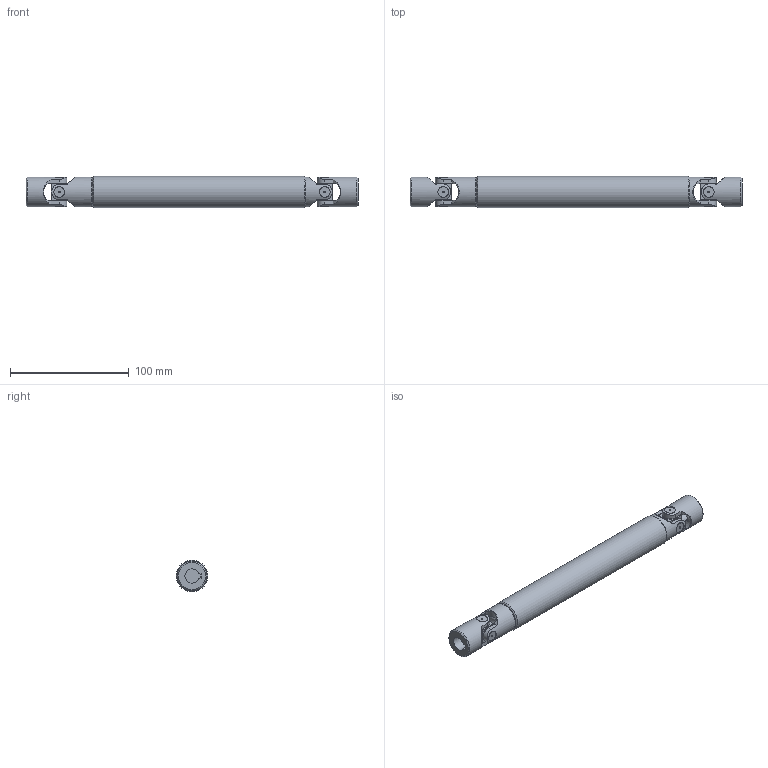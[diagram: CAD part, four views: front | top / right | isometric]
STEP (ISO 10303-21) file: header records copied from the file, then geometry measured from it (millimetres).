
FILE_DESCRIPTION(/* description */ (''),/* implementation_level */ '2;1');
FILE_NAME(/* name */ '\\SRV2016\Societa\Stefano\Disegni 3D\00Catalogo 3D\03Trasmissioni standard GA\!04GA29\!04GA29_SG0A1229.stp',/* time_stamp */ '2022-02-15T10:48:22+01:00',/* author */ ('acquisti'),/* organization */ (''),/* preprocessor_version */ 'ST-DEVELOPER v15.6',/* originating_system */ 'Autodesk Inventor 2015',/* authorisation */ '');
FILE_SCHEMA (('AUTOMOTIVE_DESIGN { 1 0 10303 214 3 1 1 }'));
Length unit declared in the file: millimetre
Products named in the file (5): !04GA29 LCI; !04GA29 LAI; 04G MOC; 04G SFE; !04GA29_SG0A1229
Assembly tree (6 placements, depth 2):
  !04GA29_SG0A1229
    !04GA29 LCI
    !04GA29 LAI
    04G MOC  x2
    04G SFE  x2
Bounding box: 280 x 26.5 x 26.5 mm (x, y, z)
Volume: 108569.3 mm3; surface area: 52235.9 mm2
Topology: 6 solids, 6 shells, 228 faces, 559 edges, 367 vertices
Faces by surface type: plane 106, cylinder 93, cone 25, torus 4
Full cylindrical faces by diameter (mm): 1.5 x8, 12 x1, 12.5 x8, 13 x2, 21 x1, 25 x4, 26.5 x1
Entity records: 5789 total; most frequent: CARTESIAN_POINT 1679, DIRECTION 823, ORIENTED_EDGE 820, EDGE_CURVE 410, AXIS2_PLACEMENT_3D 335, VERTEX_POINT 286, EDGE_LOOP 224, FACE_OUTER_BOUND 176
